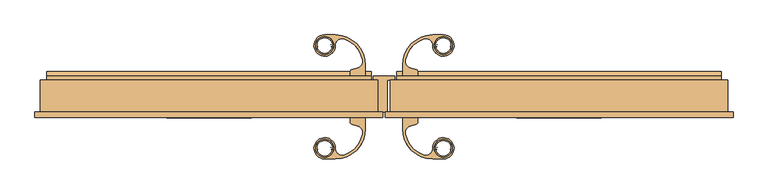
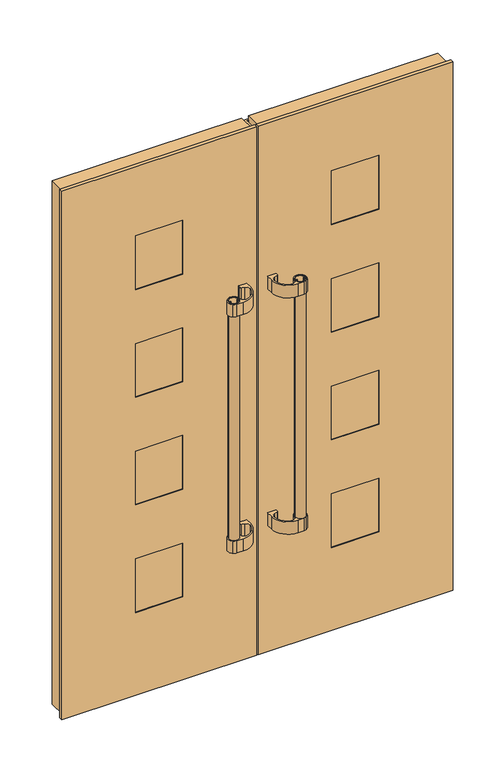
"""IFC4 building model written with IfcOpenShell, lengths in millimetres: door geometry, Dvokrilna vrata : Dvokrilna vrata."""

from ifc_helpers import new_model, si_unit, point, frame, frame_2d, origin, place, context, project, spatial, polyline, circle_curve, trimmed, segment, composite_curve, outline, extrude, faceted_brep, source, transform, mapped, element, save


def door_7fb9f7a2(model_context):
    return source(origin(), model_context, "Body", "SolidModel", [
        extrude(outline(composite_curve([segment(trimmed(circle_curve(frame_2d((-126.3492344, 128.9438952)), 19.0), [point((-107.3492344, 128.9438952))], [point((-145.3492344, 128.9438952))], False, "CARTESIAN"), True, "CONTINUOUS"), segment(trimmed(circle_curve(frame_2d((-126.3492344, 128.9438952)), 19.0), [point((-145.3492344, 128.9438952))], [point((-107.3492344, 128.9438952))], False, "CARTESIAN"), True, "CONTINUOUS")], self_intersect=False), holes=[composite_curve([segment(polyline([(-112.9852499, 130.0399107), (-114.1318511, 130.0399107), (-114.1318511, 131.0110599)]), True, "CONTINUOUS"), segment(trimmed(circle_curve(frame_2d((-111.8892344, 128.9438952)), 3.05), [point((-114.1318511, 131.0110599))], [point((-111.8892344, 131.9938952))], False, "CARTESIAN"), True, "CONTINUOUS"), segment(polyline([(-111.8892344, 131.9938952), (-110.6426275, 131.9938952)]), True, "CONTINUOUS"), segment(trimmed(circle_curve(frame_2d((-126.3492344, 128.9438952)), 16.0), [point((-110.6426275, 131.9938952))], [point((-142.0558413, 131.9938952))], True, "CARTESIAN"), True, "CONTINUOUS"), segment(polyline([(-142.0558413, 131.9938952), (-140.8492344, 131.9938952)]), True, "CONTINUOUS"), segment(trimmed(circle_curve(frame_2d((-140.8492344, 128.9438952)), 3.05), [point((-140.8492344, 131.9938952))], [point((-138.6066176, 131.0110599))], False, "CARTESIAN"), True, "CONTINUOUS"), segment(polyline([(-138.6066176, 131.0110599), (-138.6066176, 130.0399107), (-139.7532189, 130.0399107)]), True, "CONTINUOUS"), segment(trimmed(circle_curve(frame_2d((-140.8492344, 128.9438952)), 1.55), [point((-139.7532189, 130.0399107))], [point((-139.7532189, 127.8478797))], True, "CARTESIAN"), True, "CONTINUOUS"), segment(polyline([(-139.7532189, 127.8478797), (-138.6066176, 127.8478797), (-138.6066176, 126.8767304)]), True, "CONTINUOUS"), segment(trimmed(circle_curve(frame_2d((-140.8492344, 128.9438952)), 3.05), [point((-138.6066176, 126.8767304))], [point((-140.8492344, 125.8938952))], False, "CARTESIAN"), True, "CONTINUOUS"), segment(polyline([(-140.8492344, 125.8938952), (-142.0558413, 125.8938952)]), True, "CONTINUOUS"), segment(trimmed(circle_curve(frame_2d((-126.3492344, 128.9438952)), 16.0), [point((-142.0558413, 125.8938952))], [point((-110.6426275, 125.8938952))], True, "CARTESIAN"), True, "CONTINUOUS"), segment(polyline([(-110.6426275, 125.8938952), (-111.8892344, 125.8938952)]), True, "CONTINUOUS"), segment(trimmed(circle_curve(frame_2d((-111.8892344, 128.9438952)), 3.05), [point((-111.8892344, 125.8938952))], [point((-114.1318511, 126.8767304))], False, "CARTESIAN"), True, "CONTINUOUS"), segment(polyline([(-114.1318511, 126.8767304), (-114.1318511, 127.8478797), (-112.9852499, 127.8478797)]), True, "CONTINUOUS"), segment(trimmed(circle_curve(frame_2d((-111.8892344, 128.9438952)), 1.55), [point((-112.9852499, 127.8478797))], [point((-112.9852499, 130.0399107))], True, "CARTESIAN"), True, "CONTINUOUS")], self_intersect=False)]), frame((0.0, 0.0, 527.625), z_axis=(0.0, 0.0, 1.0), x_axis=(1.0, 0.0, 0.0)), (0.0, 0.0, 1.0), 1000.0),
        extrude(outline(composite_curve([segment(polyline([(-44.8023572, 63.4961329), (-71.8023572, 63.4961329), (-71.8023572, 72.7980618)]), True, "CONTINUOUS"), segment(trimmed(circle_curve(frame_2d((-66.8023572, 72.7980618)), 5.0), [point((-71.8023572, 72.7980618))], [point((-68.0964525, 77.6276909))], False, "CARTESIAN"), True, "CONTINUOUS"), segment(polyline([(-68.0964525, 77.6276909), (-56.5661053, 80.7172381)]), True, "CONTINUOUS"), segment(trimmed(circle_curve(frame_2d((-60.4493786, 95.2098114)), 15.0038159), [point((-56.5661053, 80.7172381))], [point((-45.7345113, 98.1401991))], True, "CARTESIAN"), True, "CONTINUOUS"), segment(trimmed(circle_curve(frame_2d((-103.7300199, 87.7545934)), 58.9180773), [point((-45.7345113, 98.1401991))], [point((-83.4313805, 143.0655784))], True, "CARTESIAN"), True, "CONTINUOUS"), segment(trimmed(circle_curve(frame_2d((-88.5992427, 128.9838687)), 15.0000449), [point((-83.4313805, 143.0655784))], [point((-103.5992344, 128.9438952))], True, "CARTESIAN"), True, "CONTINUOUS"), segment(trimmed(circle_curve(frame_2d((-126.230867, 128.883584)), 22.631713), [point((-103.5992344, 128.9438952))], [point((-112.9771199, 110.5387586))], False, "CARTESIAN"), True, "CONTINUOUS"), segment(trimmed(circle_curve(frame_2d((-126.3441758, 129.0404174)), 22.8251959), [point((-112.9771199, 110.5387586))], [point((-141.5719557, 112.0373504))], False, "CARTESIAN"), True, "CONTINUOUS"), segment(trimmed(circle_curve(frame_2d((-126.4269716, 128.9479692)), 22.7010919), [point((-141.5719557, 112.0373504))], [point((-139.7213489, 147.3490318))], False, "CARTESIAN"), True, "CONTINUOUS"), segment(trimmed(circle_curve(frame_2d((-126.2850899, 128.7515875)), 22.9433648), [point((-139.7213489, 147.3490318))], [point((-126.7035351, 151.6911361))], False, "CARTESIAN"), True, "CONTINUOUS"), segment(polyline([(-126.7035351, 151.6911361), (-103.7995982, 151.6911361)]), True, "CONTINUOUS"), segment(trimmed(circle_curve(frame_2d((-103.7995982, 87.6938952)), 63.997241), [point((-103.7995982, 151.6911361))], [point((-39.8023572, 87.6938952))], False, "CARTESIAN"), True, "CONTINUOUS"), segment(polyline([(-39.8023572, 87.6938952), (-39.8023572, 63.4961329), (-44.8023572, 63.4961329)]), True, "CONTINUOUS")], self_intersect=False), holes=[composite_curve([segment(trimmed(circle_curve(frame_2d((-126.3492344, 128.9438952)), 19.25), [point((-107.0992344, 128.9438952))], [point((-145.5992344, 128.9438952))], True, "CARTESIAN"), True, "CONTINUOUS"), segment(trimmed(circle_curve(frame_2d((-126.3492344, 128.9438952)), 19.25), [point((-145.5992344, 128.9438952))], [point((-107.0992344, 128.9438952))], True, "CARTESIAN"), True, "CONTINUOUS")], self_intersect=False)]), frame((0.0, 0.0, 1477.625), z_axis=(0.0, 0.0, 1.0), x_axis=(1.0, 0.0, 0.0)), (0.0, 0.0, 1.0), 50.0),
        extrude(outline(composite_curve([segment(polyline([(-44.8023572, 63.4961329), (-71.8023572, 63.4961329), (-71.8023572, 72.7980618)]), True, "CONTINUOUS"), segment(trimmed(circle_curve(frame_2d((-66.8023572, 72.7980618)), 5.0), [point((-71.8023572, 72.7980618))], [point((-68.0964525, 77.6276909))], False, "CARTESIAN"), True, "CONTINUOUS"), segment(polyline([(-68.0964525, 77.6276909), (-56.5661053, 80.7172381)]), True, "CONTINUOUS"), segment(trimmed(circle_curve(frame_2d((-60.4493786, 95.2098114)), 15.0038159), [point((-56.5661053, 80.7172381))], [point((-45.7345113, 98.1401991))], True, "CARTESIAN"), True, "CONTINUOUS"), segment(trimmed(circle_curve(frame_2d((-103.7300199, 87.7545934)), 58.9180773), [point((-45.7345113, 98.1401991))], [point((-83.4313805, 143.0655784))], True, "CARTESIAN"), True, "CONTINUOUS"), segment(trimmed(circle_curve(frame_2d((-88.5992427, 128.9838687)), 15.0000449), [point((-83.4313805, 143.0655784))], [point((-103.5992344, 128.9438952))], True, "CARTESIAN"), True, "CONTINUOUS"), segment(trimmed(circle_curve(frame_2d((-126.230867, 128.883584)), 22.631713), [point((-103.5992344, 128.9438952))], [point((-112.9771199, 110.5387586))], False, "CARTESIAN"), True, "CONTINUOUS"), segment(trimmed(circle_curve(frame_2d((-126.3441758, 129.0404174)), 22.8251959), [point((-112.9771199, 110.5387586))], [point((-141.5719557, 112.0373504))], False, "CARTESIAN"), True, "CONTINUOUS"), segment(trimmed(circle_curve(frame_2d((-126.4269716, 128.9479692)), 22.7010919), [point((-141.5719557, 112.0373504))], [point((-139.7213489, 147.3490318))], False, "CARTESIAN"), True, "CONTINUOUS"), segment(trimmed(circle_curve(frame_2d((-126.2850899, 128.7515875)), 22.9433648), [point((-139.7213489, 147.3490318))], [point((-126.7035351, 151.6911361))], False, "CARTESIAN"), True, "CONTINUOUS"), segment(polyline([(-126.7035351, 151.6911361), (-103.7995982, 151.6911361)]), True, "CONTINUOUS"), segment(trimmed(circle_curve(frame_2d((-103.7995982, 87.6938952)), 63.997241), [point((-103.7995982, 151.6911361))], [point((-39.8023572, 87.6938952))], False, "CARTESIAN"), True, "CONTINUOUS"), segment(polyline([(-39.8023572, 87.6938952), (-39.8023572, 63.4961329), (-44.8023572, 63.4961329)]), True, "CONTINUOUS")], self_intersect=False), holes=[composite_curve([segment(trimmed(circle_curve(frame_2d((-126.3492344, 128.9438952)), 19.25), [point((-107.0992344, 128.9438952))], [point((-145.5992344, 128.9438952))], True, "CARTESIAN"), True, "CONTINUOUS"), segment(trimmed(circle_curve(frame_2d((-126.3492344, 128.9438952)), 19.25), [point((-145.5992344, 128.9438952))], [point((-107.0992344, 128.9438952))], True, "CARTESIAN"), True, "CONTINUOUS")], self_intersect=False)]), frame((0.0, 0.0, 527.625), z_axis=(0.0, 0.0, 1.0), x_axis=(1.0, 0.0, 0.0)), (0.0, 0.0, 1.0), 50.0),
        extrude(outline(composite_curve([segment(trimmed(circle_curve(frame_2d((-126.3492344, -90.4477622)), 19.0), [point((-107.3492344, -90.4477622))], [point((-145.3492344, -90.4477622))], False, "CARTESIAN"), True, "CONTINUOUS"), segment(trimmed(circle_curve(frame_2d((-126.3492344, -90.4477622)), 19.0), [point((-145.3492344, -90.4477622))], [point((-107.3492344, -90.4477622))], False, "CARTESIAN"), True, "CONTINUOUS")], self_intersect=False), holes=[composite_curve([segment(trimmed(circle_curve(frame_2d((-111.8892344, -90.4477622)), 1.55), [point((-112.9852499, -91.5437777))], [point((-112.9852499, -89.3517467))], True, "CARTESIAN"), True, "CONTINUOUS"), segment(polyline([(-112.9852499, -89.3517467), (-114.1318511, -89.3517467), (-114.1318511, -88.3805975)]), True, "CONTINUOUS"), segment(trimmed(circle_curve(frame_2d((-111.8892344, -90.4477622)), 3.05), [point((-114.1318511, -88.3805975))], [point((-111.8892344, -87.3977622))], False, "CARTESIAN"), True, "CONTINUOUS"), segment(polyline([(-111.8892344, -87.3977622), (-110.6426275, -87.3977622)]), True, "CONTINUOUS"), segment(trimmed(circle_curve(frame_2d((-126.3492344, -90.4477622)), 16.0), [point((-110.6426275, -87.3977622))], [point((-142.0558413, -87.3977622))], True, "CARTESIAN"), True, "CONTINUOUS"), segment(polyline([(-142.0558413, -87.3977622), (-140.8492344, -87.3977622)]), True, "CONTINUOUS"), segment(trimmed(circle_curve(frame_2d((-140.8492344, -90.4477622)), 3.05), [point((-140.8492344, -87.3977622))], [point((-138.6066176, -88.3805975))], False, "CARTESIAN"), True, "CONTINUOUS"), segment(polyline([(-138.6066176, -88.3805975), (-138.6066176, -89.3517467), (-139.7532189, -89.3517467)]), True, "CONTINUOUS"), segment(trimmed(circle_curve(frame_2d((-140.8492344, -90.4477622)), 1.55), [point((-139.7532189, -89.3517467))], [point((-139.7532189, -91.5437777))], True, "CARTESIAN"), True, "CONTINUOUS"), segment(polyline([(-139.7532189, -91.5437777), (-138.6066176, -91.5437777), (-138.6066176, -92.514927)]), True, "CONTINUOUS"), segment(trimmed(circle_curve(frame_2d((-140.8492344, -90.4477622)), 3.05), [point((-138.6066176, -92.514927))], [point((-140.8492344, -93.4977622))], False, "CARTESIAN"), True, "CONTINUOUS"), segment(polyline([(-140.8492344, -93.4977622), (-142.0558413, -93.4977622)]), True, "CONTINUOUS"), segment(trimmed(circle_curve(frame_2d((-126.3492344, -90.4477622)), 16.0), [point((-142.0558413, -93.4977622))], [point((-110.6426275, -93.4977622))], True, "CARTESIAN"), True, "CONTINUOUS"), segment(polyline([(-110.6426275, -93.4977622), (-111.8892344, -93.4977622)]), True, "CONTINUOUS"), segment(trimmed(circle_curve(frame_2d((-111.8892344, -90.4477622)), 3.05), [point((-111.8892344, -93.4977622))], [point((-114.1318511, -92.514927))], False, "CARTESIAN"), True, "CONTINUOUS"), segment(polyline([(-114.1318511, -92.514927), (-114.1318511, -91.5437777), (-112.9852499, -91.5437777)]), True, "CONTINUOUS")], self_intersect=False)]), frame((0.0, 0.0, 527.625), z_axis=(0.0, 0.0, 1.0), x_axis=(1.0, 0.0, 0.0)), (0.0, 0.0, 1.0), 1000.0),
        extrude(outline(composite_curve([segment(polyline([(-44.8023572, -25.0), (-39.8023572, -25.0), (-39.8023572, -49.1977622)]), True, "CONTINUOUS"), segment(trimmed(circle_curve(frame_2d((-103.7995982, -49.1977622)), 63.997241), [point((-39.8023572, -49.1977622))], [point((-103.7995982, -113.1950032))], False, "CARTESIAN"), True, "CONTINUOUS"), segment(polyline([(-103.7995982, -113.1950032), (-126.7035351, -113.1950032)]), True, "CONTINUOUS"), segment(trimmed(circle_curve(frame_2d((-126.2850899, -90.2554545)), 22.9433648), [point((-126.7035351, -113.1950032))], [point((-139.7213489, -108.8528989))], False, "CARTESIAN"), True, "CONTINUOUS"), segment(trimmed(circle_curve(frame_2d((-126.4269716, -90.4518363)), 22.7010919), [point((-139.7213489, -108.8528989))], [point((-141.5719557, -73.5412175))], False, "CARTESIAN"), True, "CONTINUOUS"), segment(trimmed(circle_curve(frame_2d((-126.3441758, -90.5442845)), 22.8251959), [point((-141.5719557, -73.5412175))], [point((-112.9771199, -72.0426256))], False, "CARTESIAN"), True, "CONTINUOUS"), segment(trimmed(circle_curve(frame_2d((-126.230867, -90.3874511)), 22.631713), [point((-112.9771199, -72.0426256))], [point((-103.5992344, -90.4477622))], False, "CARTESIAN"), True, "CONTINUOUS"), segment(trimmed(circle_curve(frame_2d((-88.5992427, -90.4877358)), 15.0000449), [point((-103.5992344, -90.4477622))], [point((-83.4313805, -104.5694455))], True, "CARTESIAN"), True, "CONTINUOUS"), segment(trimmed(circle_curve(frame_2d((-103.7300199, -49.2584604)), 58.9180773), [point((-83.4313805, -104.5694455))], [point((-45.7345113, -59.6440661))], True, "CARTESIAN"), True, "CONTINUOUS"), segment(trimmed(circle_curve(frame_2d((-60.4493786, -56.7136785)), 15.0038159), [point((-45.7345113, -59.6440661))], [point((-56.5661053, -42.2211052))], True, "CARTESIAN"), True, "CONTINUOUS"), segment(polyline([(-56.5661053, -42.2211052), (-68.0964525, -39.131558)]), True, "CONTINUOUS"), segment(trimmed(circle_curve(frame_2d((-66.8023572, -34.3019289)), 5.0), [point((-68.0964525, -39.131558))], [point((-71.8023572, -34.3019289))], False, "CARTESIAN"), True, "CONTINUOUS"), segment(polyline([(-71.8023572, -34.3019289), (-71.8023572, -25.0), (-44.8023572, -25.0)]), True, "CONTINUOUS")], self_intersect=False), holes=[composite_curve([segment(trimmed(circle_curve(frame_2d((-126.3492344, -90.4477622)), 19.25), [point((-107.0992344, -90.4477622))], [point((-145.5992344, -90.4477622))], True, "CARTESIAN"), True, "CONTINUOUS"), segment(trimmed(circle_curve(frame_2d((-126.3492344, -90.4477622)), 19.25), [point((-145.5992344, -90.4477622))], [point((-107.0992344, -90.4477622))], True, "CARTESIAN"), True, "CONTINUOUS")], self_intersect=False)]), frame((0.0, 0.0, 1477.625), z_axis=(0.0, 0.0, 1.0), x_axis=(1.0, 0.0, 0.0)), (0.0, 0.0, 1.0), 50.0),
        extrude(outline(composite_curve([segment(polyline([(-44.8023572, -25.0), (-39.8023572, -25.0), (-39.8023572, -49.1977622)]), True, "CONTINUOUS"), segment(trimmed(circle_curve(frame_2d((-103.7995982, -49.1977622)), 63.997241), [point((-39.8023572, -49.1977622))], [point((-103.7995982, -113.1950032))], False, "CARTESIAN"), True, "CONTINUOUS"), segment(polyline([(-103.7995982, -113.1950032), (-126.7035351, -113.1950032)]), True, "CONTINUOUS"), segment(trimmed(circle_curve(frame_2d((-126.2850899, -90.2554545)), 22.9433648), [point((-126.7035351, -113.1950032))], [point((-139.7213489, -108.8528989))], False, "CARTESIAN"), True, "CONTINUOUS"), segment(trimmed(circle_curve(frame_2d((-126.4269716, -90.4518363)), 22.7010919), [point((-139.7213489, -108.8528989))], [point((-141.5719557, -73.5412175))], False, "CARTESIAN"), True, "CONTINUOUS"), segment(trimmed(circle_curve(frame_2d((-126.3441758, -90.5442845)), 22.8251959), [point((-141.5719557, -73.5412175))], [point((-112.9771199, -72.0426256))], False, "CARTESIAN"), True, "CONTINUOUS"), segment(trimmed(circle_curve(frame_2d((-126.230867, -90.3874511)), 22.631713), [point((-112.9771199, -72.0426256))], [point((-103.5992344, -90.4477622))], False, "CARTESIAN"), True, "CONTINUOUS"), segment(trimmed(circle_curve(frame_2d((-88.5992427, -90.4877358)), 15.0000449), [point((-103.5992344, -90.4477622))], [point((-83.4313805, -104.5694455))], True, "CARTESIAN"), True, "CONTINUOUS"), segment(trimmed(circle_curve(frame_2d((-103.7300199, -49.2584604)), 58.9180773), [point((-83.4313805, -104.5694455))], [point((-45.7345113, -59.6440661))], True, "CARTESIAN"), True, "CONTINUOUS"), segment(trimmed(circle_curve(frame_2d((-60.4493786, -56.7136785)), 15.0038159), [point((-45.7345113, -59.6440661))], [point((-56.5661053, -42.2211052))], True, "CARTESIAN"), True, "CONTINUOUS"), segment(polyline([(-56.5661053, -42.2211052), (-68.0964525, -39.131558)]), True, "CONTINUOUS"), segment(trimmed(circle_curve(frame_2d((-66.8023572, -34.3019289)), 5.0), [point((-68.0964525, -39.131558))], [point((-71.8023572, -34.3019289))], False, "CARTESIAN"), True, "CONTINUOUS"), segment(polyline([(-71.8023572, -34.3019289), (-71.8023572, -25.0), (-44.8023572, -25.0)]), True, "CONTINUOUS")], self_intersect=False), holes=[composite_curve([segment(trimmed(circle_curve(frame_2d((-126.3492344, -90.4477622)), 19.25), [point((-107.0992344, -90.4477622))], [point((-145.5992344, -90.4477622))], True, "CARTESIAN"), True, "CONTINUOUS"), segment(trimmed(circle_curve(frame_2d((-126.3492344, -90.4477622)), 19.25), [point((-145.5992344, -90.4477622))], [point((-107.0992344, -90.4477622))], True, "CARTESIAN"), True, "CONTINUOUS")], self_intersect=False)]), frame((0.0, 0.0, 527.625), z_axis=(0.0, 0.0, 1.0), x_axis=(1.0, 0.0, 0.0)), (0.0, 0.0, 1.0), 50.0),
        extrude(outline(polyline([(-282.9982811, 59.8961329), (-282.9982811, -21.5), (-463.0017189, -21.5), (-463.0017189, 59.8961329), (-282.9982811, 59.8961329)])), frame((0.0, 0.0, 184.2503392), z_axis=(0.0, 0.0, 1.0), x_axis=(1.0, 0.0, 0.0)), (0.0, 0.0, 1.0), 1742.3567656),
        faceted_brep([(-27.5021965, 55.0006316, 34.3057913), (-27.5021965, 56.2006316, 34.3057913), (-27.5021965, 56.2006316, 43.8984108), (-27.5021965, 64.4629528, 43.8984108), (-27.5021965, 72.0042669, 35.8113415), (-27.5021965, 72.0042669, 33.9357913), (-27.5021965, 73.5042669, 33.9357913), (-27.5021965, 73.5042669, 35.9623235), (-27.5021965, 65.0744489, 45.0021965), (-27.5021965, 63.4961329, 45.0021965), (-27.5021965, 63.4961329, 2118.4978035), (-27.5021965, 55.0006316, 2118.4978035), (-13.5023584, 55.0006316, 31.0023584), (-732.4976416, 55.0006316, 31.0023584), (-732.4976416, 55.0006316, 2132.4976416), (-13.5023584, 55.0006316, 2132.4976416), (-13.5023584, 55.0006316, 2115.0), (-17.3523584, 55.0006316, 2115.0), (-22.5040983, 55.0006316, 2115.0), (-22.5040983, 55.0006316, 48.5), (-17.3523584, 55.0006316, 48.5), (-13.5023584, 55.0006316, 48.5), (-718.4978035, 55.0006316, 2118.4978035), (-718.4978035, 55.0006316, 34.3057913), (-718.4978035, 63.4961329, 45.0021965), (-718.4978035, 63.4961329, 2118.4978035), (-282.9982811, 63.4961329, 1000.80125), (-463.0017189, 63.4961329, 1000.80125), (-463.0017189, 63.4961329, 784.6925), (-282.9982811, 63.4961329, 784.6925), (-282.9982811, 63.4961329, 568.58375), (-463.0017189, 63.4961329, 568.58375), (-463.0017189, 63.4961329, 352.475), (-282.9982811, 63.4961329, 352.475), (-282.9982811, 63.4961329, 1865.23625), (-463.0017189, 63.4961329, 1865.23625), (-463.0017189, 63.4961329, 1649.1275), (-282.9982811, 63.4961329, 1649.1275), (-282.9982811, 63.4961329, 1433.01875), (-463.0017189, 63.4961329, 1433.01875), (-463.0017189, 63.4961329, 1216.91), (-282.9982811, 63.4961329, 1216.91), (-82.9982811, -21.5, 2063.0017189), (-82.9982811, 59.8961329, 2063.0017189), (-82.9982811, 59.8961329, 100.4982811), (-82.9982811, -21.5, 100.4982811), (-663.0017189, 59.8961329, 2063.0017189), (-663.0017189, 59.8961329, 100.4982811), (-463.0017189, 59.8961329, 1000.80125), (-282.9982811, 59.8961329, 1000.80125), (-282.9982811, 59.8961329, 784.6925), (-463.0017189, 59.8961329, 784.6925), (-463.0017189, 59.8961329, 568.58375), (-282.9982811, 59.8961329, 568.58375), (-282.9982811, 59.8961329, 352.475), (-463.0017189, 59.8961329, 352.475), (-463.0017189, 59.8961329, 1865.23625), (-282.9982811, 59.8961329, 1865.23625), (-282.9982811, 59.8961329, 1649.1275), (-463.0017189, 59.8961329, 1649.1275), (-463.0017189, 59.8961329, 1433.01875), (-282.9982811, 59.8961329, 1433.01875), (-282.9982811, 59.8961329, 1216.91), (-463.0017189, 59.8961329, 1216.91), (-663.0017189, -21.5, 100.4982811), (-663.0017189, -21.5, 2063.0017189), (-282.9982811, -21.5, 1000.80125), (-463.0017189, -21.5, 1000.80125), (-463.0017189, -21.5, 784.6925), (-282.9982811, -21.5, 784.6925), (-282.9982811, -21.5, 568.58375), (-463.0017189, -21.5, 568.58375), (-463.0017189, -21.5, 352.475), (-282.9982811, -21.5, 352.475), (-282.9982811, -21.5, 1865.23625), (-463.0017189, -21.5, 1865.23625), (-463.0017189, -21.5, 1649.1275), (-282.9982811, -21.5, 1649.1275), (-282.9982811, -21.5, 1433.01875), (-463.0017189, -21.5, 1433.01875), (-463.0017189, -21.5, 1216.91), (-282.9982811, -21.5, 1216.91), (-2.5023572, -25.0, 2143.5), (-743.4976428, -25.0, 2143.5), (-743.4976428, -25.0, 20.0), (-2.5023572, -25.0, 20.0), (-463.0017189, -25.0, 1000.80125), (-282.9982811, -25.0, 1000.80125), (-282.9982811, -25.0, 784.6925), (-463.0017189, -25.0, 784.6925), (-463.0017189, -25.0, 568.58375), (-282.9982811, -25.0, 568.58375), (-282.9982811, -25.0, 352.475), (-463.0017189, -25.0, 352.475), (-463.0017189, -25.0, 1865.23625), (-282.9982811, -25.0, 1865.23625), (-282.9982811, -25.0, 1649.1275), (-463.0017189, -25.0, 1649.1275), (-463.0017189, -25.0, 1433.01875), (-282.9982811, -25.0, 1433.01875), (-282.9982811, -25.0, 1216.91), (-463.0017189, -25.0, 1216.91), (-2.5023572, -13.0033697, 20.0023572), (-2.5023572, -13.0033697, 48.5), (-2.5023572, -12.9982103, 2115.0), (-2.5023572, -13.0033697, 2143.4976428), (-743.4976428, -13.0033697, 20.0023572), (-743.4976428, -13.0033697, 2143.4976428), (-13.5023584, -13.0033697, 2115.0), (-13.5023584, -13.0033697, 2132.4976416), (-732.4976416, -13.0033697, 2132.4976416), (-732.4976416, -13.0033697, 31.0023584), (-13.5023584, -13.0033697, 31.0023584), (-13.5023584, -13.0033697, 48.5), (7.0007099, -12.9982103, 48.5), (7.0007099, -12.9982103, 2115.0), (-22.5040983, 63.5006316, 48.5), (22.4934309, 63.5006316, 48.5), (22.4934309, 55.0305759, 48.5), (7.0007099, 55.0305759, 48.5), (-718.4978035, 65.0744489, 45.0021965), (-718.4978035, 73.5042669, 35.9623235), (-718.4978035, 73.5042669, 33.9357913), (-718.4978035, 72.0042669, 33.9357913), (-718.4978035, 72.0042669, 35.8113415), (-718.4978035, 64.4629528, 43.8984108), (-718.4978035, 56.2006316, 43.8984108), (-718.4978035, 56.2006316, 34.3057913), (-22.5040983, 63.5006316, 2115.0), (22.4934309, 63.5006316, 2115.0), (22.4934309, 55.0305759, 2115.0), (7.0007099, 55.0305759, 2115.0)], [[[0, 1, 2, 3, 4, 5, 6, 7, 8, 9, 10, 11]], [[12, 13, 14, 15, 16, 17, 18, 19, 20, 21], [0, 11, 22, 23]], [[10, 9, 24, 25], [26, 27, 28, 29], [30, 31, 32, 33], [34, 35, 36, 37], [38, 39, 40, 41]], [[42, 43, 44, 45]], [[44, 43, 46, 47], [48, 49, 50, 51], [52, 53, 54, 55], [56, 57, 58, 59], [60, 61, 62, 63]], [[45, 44, 47, 64]], [[42, 45, 64, 65], [66, 67, 68, 69], [70, 71, 72, 73], [74, 75, 76, 77], [78, 79, 80, 81]], [[82, 83, 84, 85], [86, 87, 88, 89], [90, 91, 92, 93], [94, 95, 96, 97], [98, 99, 100, 101]], [[82, 85, 102, 103, 104, 105]], [[106, 102, 85, 84]], [[102, 106, 107, 105, 104, 108, 109, 110, 111, 112, 113, 103]], [[114, 115, 104, 103]], [[112, 12, 21, 113]], [[15, 109, 108, 16]], [[12, 112, 111, 13]], [[19, 116, 117, 118, 119, 114, 103, 113, 21, 20]], [[22, 25, 24, 120, 121, 122, 123, 124, 125, 126, 127, 23]], [[64, 47, 46, 65]], [[107, 106, 84, 83]], [[13, 111, 110, 14]], [[18, 128, 116, 19]], [[39, 60, 63, 40]], [[79, 98, 101, 80]], [[40, 63, 62, 41]], [[80, 101, 100, 81]], [[61, 38, 41, 62]], [[99, 78, 81, 100]], [[26, 49, 48, 27]], [[66, 87, 86, 67]], [[49, 26, 29, 50]], [[87, 66, 69, 88]], [[28, 51, 50, 29]], [[68, 89, 88, 69]], [[27, 48, 51, 28]], [[67, 86, 89, 68]], [[30, 53, 52, 31]], [[70, 91, 90, 71]], [[53, 30, 33, 54]], [[91, 70, 73, 92]], [[32, 55, 54, 33]], [[72, 93, 92, 73]], [[31, 52, 55, 32]], [[71, 90, 93, 72]], [[128, 129, 117, 116]], [[129, 130, 118, 117]], [[130, 131, 119, 118]], [[131, 115, 114, 119]], [[22, 11, 10, 25]], [[43, 42, 65, 46]], [[105, 107, 83, 82]], [[109, 15, 14, 110]], [[34, 57, 56, 35]], [[74, 95, 94, 75]], [[35, 56, 59, 36]], [[75, 94, 97, 76]], [[36, 59, 58, 37]], [[76, 97, 96, 77]], [[57, 34, 37, 58]], [[95, 74, 77, 96]], [[38, 61, 60, 39]], [[78, 99, 98, 79]], [[115, 131, 130, 129, 128, 18, 17, 16, 108, 104]], [[23, 127, 1, 0]], [[127, 126, 2, 1]], [[126, 125, 3, 2]], [[125, 124, 4, 3]], [[124, 123, 5, 4]], [[123, 122, 6, 5]], [[122, 121, 7, 6]], [[121, 120, 8, 7]], [[8, 120, 24, 9]]]),
        extrude(outline(composite_curve([segment(trimmed(circle_curve(frame_2d((126.3492344, 128.9438952)), 19.0), [point((107.3492344, 128.9438952))], [point((145.3492344, 128.9438952))], False, "CARTESIAN"), True, "CONTINUOUS"), segment(trimmed(circle_curve(frame_2d((126.3492344, 128.9438952)), 19.0), [point((145.3492344, 128.9438952))], [point((107.3492344, 128.9438952))], False, "CARTESIAN"), True, "CONTINUOUS")], self_intersect=False), holes=[composite_curve([segment(trimmed(circle_curve(frame_2d((111.8892344, 128.9438952)), 1.55), [point((112.9852499, 130.0399107))], [point((112.9852499, 127.8478797))], True, "CARTESIAN"), True, "CONTINUOUS"), segment(polyline([(112.9852499, 127.8478797), (114.1318511, 127.8478797), (114.1318511, 126.8767304)]), True, "CONTINUOUS"), segment(trimmed(circle_curve(frame_2d((111.8892344, 128.9438952)), 3.05), [point((114.1318511, 126.8767304))], [point((111.8892344, 125.8938952))], False, "CARTESIAN"), True, "CONTINUOUS"), segment(polyline([(111.8892344, 125.8938952), (110.6426275, 125.8938952)]), True, "CONTINUOUS"), segment(trimmed(circle_curve(frame_2d((126.3492344, 128.9438952)), 16.0), [point((110.6426275, 125.8938952))], [point((142.0558413, 125.8938952))], True, "CARTESIAN"), True, "CONTINUOUS"), segment(polyline([(142.0558413, 125.8938952), (140.8492344, 125.8938952)]), True, "CONTINUOUS"), segment(trimmed(circle_curve(frame_2d((140.8492344, 128.9438952)), 3.05), [point((140.8492344, 125.8938952))], [point((138.6066176, 126.8767304))], False, "CARTESIAN"), True, "CONTINUOUS"), segment(polyline([(138.6066176, 126.8767304), (138.6066176, 127.8478797), (139.7532189, 127.8478797)]), True, "CONTINUOUS"), segment(trimmed(circle_curve(frame_2d((140.8492344, 128.9438952)), 1.55), [point((139.7532189, 127.8478797))], [point((139.7532189, 130.0399107))], True, "CARTESIAN"), True, "CONTINUOUS"), segment(polyline([(139.7532189, 130.0399107), (138.6066176, 130.0399107), (138.6066176, 131.0110599)]), True, "CONTINUOUS"), segment(trimmed(circle_curve(frame_2d((140.8492344, 128.9438952)), 3.05), [point((138.6066176, 131.0110599))], [point((140.8492344, 131.9938952))], False, "CARTESIAN"), True, "CONTINUOUS"), segment(polyline([(140.8492344, 131.9938952), (142.0558413, 131.9938952)]), True, "CONTINUOUS"), segment(trimmed(circle_curve(frame_2d((126.3492344, 128.9438952)), 16.0), [point((142.0558413, 131.9938952))], [point((110.6426275, 131.9938952))], True, "CARTESIAN"), True, "CONTINUOUS"), segment(polyline([(110.6426275, 131.9938952), (111.8892344, 131.9938952)]), True, "CONTINUOUS"), segment(trimmed(circle_curve(frame_2d((111.8892344, 128.9438952)), 3.05), [point((111.8892344, 131.9938952))], [point((114.1318511, 131.0110599))], False, "CARTESIAN"), True, "CONTINUOUS"), segment(polyline([(114.1318511, 131.0110599), (114.1318511, 130.0399107), (112.9852499, 130.0399107)]), True, "CONTINUOUS")], self_intersect=False)]), frame((0.0, 0.0, 527.625), z_axis=(0.0, 0.0, 1.0), x_axis=(1.0, 0.0, 0.0)), (0.0, 0.0, 1.0), 1000.0),
        extrude(outline(composite_curve([segment(polyline([(44.8023572, 63.4961329), (39.8023572, 63.4961329), (39.8023572, 87.6938952)]), True, "CONTINUOUS"), segment(trimmed(circle_curve(frame_2d((103.7995982, 87.6938952)), 63.997241), [point((39.8023572, 87.6938952))], [point((103.7995982, 151.6911361))], False, "CARTESIAN"), True, "CONTINUOUS"), segment(polyline([(103.7995982, 151.6911361), (126.7035351, 151.6911361)]), True, "CONTINUOUS"), segment(trimmed(circle_curve(frame_2d((126.2850899, 128.7515875)), 22.9433648), [point((126.7035351, 151.6911361))], [point((139.7213489, 147.3490318))], False, "CARTESIAN"), True, "CONTINUOUS"), segment(trimmed(circle_curve(frame_2d((126.4269716, 128.9479692)), 22.7010919), [point((139.7213489, 147.3490318))], [point((141.5719557, 112.0373504))], False, "CARTESIAN"), True, "CONTINUOUS"), segment(trimmed(circle_curve(frame_2d((126.3441758, 129.0404174)), 22.8251959), [point((141.5719557, 112.0373504))], [point((112.9771199, 110.5387586))], False, "CARTESIAN"), True, "CONTINUOUS"), segment(trimmed(circle_curve(frame_2d((126.230867, 128.883584)), 22.631713), [point((112.9771199, 110.5387586))], [point((103.5992344, 128.9438952))], False, "CARTESIAN"), True, "CONTINUOUS"), segment(trimmed(circle_curve(frame_2d((88.5992427, 128.9838687)), 15.0000449), [point((103.5992344, 128.9438952))], [point((83.4313805, 143.0655784))], True, "CARTESIAN"), True, "CONTINUOUS"), segment(trimmed(circle_curve(frame_2d((103.7300199, 87.7545934)), 58.9180773), [point((83.4313805, 143.0655784))], [point((45.7345113, 98.1401991))], True, "CARTESIAN"), True, "CONTINUOUS"), segment(trimmed(circle_curve(frame_2d((60.4493786, 95.2098114)), 15.0038159), [point((45.7345113, 98.1401991))], [point((56.5661053, 80.7172381))], True, "CARTESIAN"), True, "CONTINUOUS"), segment(polyline([(56.5661053, 80.7172381), (68.0964525, 77.6276909)]), True, "CONTINUOUS"), segment(trimmed(circle_curve(frame_2d((66.8023572, 72.7980618)), 5.0), [point((68.0964525, 77.6276909))], [point((71.8023572, 72.7980618))], False, "CARTESIAN"), True, "CONTINUOUS"), segment(polyline([(71.8023572, 72.7980618), (71.8023572, 63.4961329), (44.8023572, 63.4961329)]), True, "CONTINUOUS")], self_intersect=False), holes=[composite_curve([segment(trimmed(circle_curve(frame_2d((126.3492344, 128.9438952)), 19.25), [point((107.0992344, 128.9438952))], [point((145.5992344, 128.9438952))], True, "CARTESIAN"), True, "CONTINUOUS"), segment(trimmed(circle_curve(frame_2d((126.3492344, 128.9438952)), 19.25), [point((145.5992344, 128.9438952))], [point((107.0992344, 128.9438952))], True, "CARTESIAN"), True, "CONTINUOUS")], self_intersect=False)]), frame((0.0, 0.0, 1477.625), z_axis=(0.0, 0.0, 1.0), x_axis=(1.0, 0.0, 0.0)), (0.0, 0.0, 1.0), 50.0),
        extrude(outline(composite_curve([segment(polyline([(44.8023572, 63.4961329), (39.8023572, 63.4961329), (39.8023572, 87.6938952)]), True, "CONTINUOUS"), segment(trimmed(circle_curve(frame_2d((103.7995982, 87.6938952)), 63.997241), [point((39.8023572, 87.6938952))], [point((103.7995982, 151.6911361))], False, "CARTESIAN"), True, "CONTINUOUS"), segment(polyline([(103.7995982, 151.6911361), (126.7035351, 151.6911361)]), True, "CONTINUOUS"), segment(trimmed(circle_curve(frame_2d((126.2850899, 128.7515875)), 22.9433648), [point((126.7035351, 151.6911361))], [point((139.7213489, 147.3490318))], False, "CARTESIAN"), True, "CONTINUOUS"), segment(trimmed(circle_curve(frame_2d((126.4269716, 128.9479692)), 22.7010919), [point((139.7213489, 147.3490318))], [point((141.5719557, 112.0373504))], False, "CARTESIAN"), True, "CONTINUOUS"), segment(trimmed(circle_curve(frame_2d((126.3441758, 129.0404174)), 22.8251959), [point((141.5719557, 112.0373504))], [point((112.9771199, 110.5387586))], False, "CARTESIAN"), True, "CONTINUOUS"), segment(trimmed(circle_curve(frame_2d((126.230867, 128.883584)), 22.631713), [point((112.9771199, 110.5387586))], [point((103.5992344, 128.9438952))], False, "CARTESIAN"), True, "CONTINUOUS"), segment(trimmed(circle_curve(frame_2d((88.5992427, 128.9838687)), 15.0000449), [point((103.5992344, 128.9438952))], [point((83.4313805, 143.0655784))], True, "CARTESIAN"), True, "CONTINUOUS"), segment(trimmed(circle_curve(frame_2d((103.7300199, 87.7545934)), 58.9180773), [point((83.4313805, 143.0655784))], [point((45.7345113, 98.1401991))], True, "CARTESIAN"), True, "CONTINUOUS"), segment(trimmed(circle_curve(frame_2d((60.4493786, 95.2098114)), 15.0038159), [point((45.7345113, 98.1401991))], [point((56.5661053, 80.7172381))], True, "CARTESIAN"), True, "CONTINUOUS"), segment(polyline([(56.5661053, 80.7172381), (68.0964525, 77.6276909)]), True, "CONTINUOUS"), segment(trimmed(circle_curve(frame_2d((66.8023572, 72.7980618)), 5.0), [point((68.0964525, 77.6276909))], [point((71.8023572, 72.7980618))], False, "CARTESIAN"), True, "CONTINUOUS"), segment(polyline([(71.8023572, 72.7980618), (71.8023572, 63.4961329), (44.8023572, 63.4961329)]), True, "CONTINUOUS")], self_intersect=False), holes=[composite_curve([segment(trimmed(circle_curve(frame_2d((126.3492344, 128.9438952)), 19.25), [point((107.0992344, 128.9438952))], [point((145.5992344, 128.9438952))], True, "CARTESIAN"), True, "CONTINUOUS"), segment(trimmed(circle_curve(frame_2d((126.3492344, 128.9438952)), 19.25), [point((145.5992344, 128.9438952))], [point((107.0992344, 128.9438952))], True, "CARTESIAN"), True, "CONTINUOUS")], self_intersect=False)]), frame((0.0, 0.0, 527.625), z_axis=(0.0, 0.0, 1.0), x_axis=(1.0, 0.0, 0.0)), (0.0, 0.0, 1.0), 50.0),
        extrude(outline(composite_curve([segment(trimmed(circle_curve(frame_2d((126.3492344, -90.4477622)), 19.0), [point((107.3492344, -90.4477622))], [point((145.3492344, -90.4477622))], False, "CARTESIAN"), True, "CONTINUOUS"), segment(trimmed(circle_curve(frame_2d((126.3492344, -90.4477622)), 19.0), [point((145.3492344, -90.4477622))], [point((107.3492344, -90.4477622))], False, "CARTESIAN"), True, "CONTINUOUS")], self_intersect=False), holes=[composite_curve([segment(polyline([(112.9852499, -91.5437777), (114.1318511, -91.5437777), (114.1318511, -92.514927)]), True, "CONTINUOUS"), segment(trimmed(circle_curve(frame_2d((111.8892344, -90.4477622)), 3.05), [point((114.1318511, -92.514927))], [point((111.8892344, -93.4977622))], False, "CARTESIAN"), True, "CONTINUOUS"), segment(polyline([(111.8892344, -93.4977622), (110.6426275, -93.4977622)]), True, "CONTINUOUS"), segment(trimmed(circle_curve(frame_2d((126.3492344, -90.4477622)), 16.0), [point((110.6426275, -93.4977622))], [point((142.0558413, -93.4977622))], True, "CARTESIAN"), True, "CONTINUOUS"), segment(polyline([(142.0558413, -93.4977622), (140.8492344, -93.4977622)]), True, "CONTINUOUS"), segment(trimmed(circle_curve(frame_2d((140.8492344, -90.4477622)), 3.05), [point((140.8492344, -93.4977622))], [point((138.6066176, -92.514927))], False, "CARTESIAN"), True, "CONTINUOUS"), segment(polyline([(138.6066176, -92.514927), (138.6066176, -91.5437777), (139.7532189, -91.5437777)]), True, "CONTINUOUS"), segment(trimmed(circle_curve(frame_2d((140.8492344, -90.4477622)), 1.55), [point((139.7532189, -91.5437777))], [point((139.7532189, -89.3517467))], True, "CARTESIAN"), True, "CONTINUOUS"), segment(polyline([(139.7532189, -89.3517467), (138.6066176, -89.3517467), (138.6066176, -88.3805975)]), True, "CONTINUOUS"), segment(trimmed(circle_curve(frame_2d((140.8492344, -90.4477622)), 3.05), [point((138.6066176, -88.3805975))], [point((140.8492344, -87.3977622))], False, "CARTESIAN"), True, "CONTINUOUS"), segment(polyline([(140.8492344, -87.3977622), (142.0558413, -87.3977622)]), True, "CONTINUOUS"), segment(trimmed(circle_curve(frame_2d((126.3492344, -90.4477622)), 16.0), [point((142.0558413, -87.3977622))], [point((110.6426275, -87.3977622))], True, "CARTESIAN"), True, "CONTINUOUS"), segment(polyline([(110.6426275, -87.3977622), (111.8892344, -87.3977622)]), True, "CONTINUOUS"), segment(trimmed(circle_curve(frame_2d((111.8892344, -90.4477622)), 3.05), [point((111.8892344, -87.3977622))], [point((114.1318511, -88.3805975))], False, "CARTESIAN"), True, "CONTINUOUS"), segment(polyline([(114.1318511, -88.3805975), (114.1318511, -89.3517467), (112.9852499, -89.3517467)]), True, "CONTINUOUS"), segment(trimmed(circle_curve(frame_2d((111.8892344, -90.4477622)), 1.55), [point((112.9852499, -89.3517467))], [point((112.9852499, -91.5437777))], True, "CARTESIAN"), True, "CONTINUOUS")], self_intersect=False)]), frame((0.0, 0.0, 527.625), z_axis=(0.0, 0.0, 1.0), x_axis=(1.0, 0.0, 0.0)), (0.0, 0.0, 1.0), 1000.0),
        extrude(outline(composite_curve([segment(polyline([(44.8023572, -25.0), (71.8023572, -25.0), (71.8023572, -34.3019289)]), True, "CONTINUOUS"), segment(trimmed(circle_curve(frame_2d((66.8023572, -34.3019289)), 5.0), [point((71.8023572, -34.3019289))], [point((68.0964525, -39.131558))], False, "CARTESIAN"), True, "CONTINUOUS"), segment(polyline([(68.0964525, -39.131558), (56.5661053, -42.2211052)]), True, "CONTINUOUS"), segment(trimmed(circle_curve(frame_2d((60.4493786, -56.7136785)), 15.0038159), [point((56.5661053, -42.2211052))], [point((45.7345113, -59.6440661))], True, "CARTESIAN"), True, "CONTINUOUS"), segment(trimmed(circle_curve(frame_2d((103.7300199, -49.2584604)), 58.9180773), [point((45.7345113, -59.6440661))], [point((83.4313805, -104.5694455))], True, "CARTESIAN"), True, "CONTINUOUS"), segment(trimmed(circle_curve(frame_2d((88.5992427, -90.4877358)), 15.0000449), [point((83.4313805, -104.5694455))], [point((103.5992344, -90.4477622))], True, "CARTESIAN"), True, "CONTINUOUS"), segment(trimmed(circle_curve(frame_2d((126.230867, -90.3874511)), 22.631713), [point((103.5992344, -90.4477622))], [point((112.9771199, -72.0426256))], False, "CARTESIAN"), True, "CONTINUOUS"), segment(trimmed(circle_curve(frame_2d((126.3441758, -90.5442845)), 22.8251959), [point((112.9771199, -72.0426256))], [point((141.5719557, -73.5412175))], False, "CARTESIAN"), True, "CONTINUOUS"), segment(trimmed(circle_curve(frame_2d((126.4269716, -90.4518363)), 22.7010919), [point((141.5719557, -73.5412175))], [point((139.7213489, -108.8528989))], False, "CARTESIAN"), True, "CONTINUOUS"), segment(trimmed(circle_curve(frame_2d((126.2850899, -90.2554545)), 22.9433648), [point((139.7213489, -108.8528989))], [point((126.7035351, -113.1950032))], False, "CARTESIAN"), True, "CONTINUOUS"), segment(polyline([(126.7035351, -113.1950032), (103.7995982, -113.1950032)]), True, "CONTINUOUS"), segment(trimmed(circle_curve(frame_2d((103.7995982, -49.1977622)), 63.997241), [point((103.7995982, -113.1950032))], [point((39.8023572, -49.1977622))], False, "CARTESIAN"), True, "CONTINUOUS"), segment(polyline([(39.8023572, -49.1977622), (39.8023572, -25.0), (44.8023572, -25.0)]), True, "CONTINUOUS")], self_intersect=False), holes=[composite_curve([segment(trimmed(circle_curve(frame_2d((126.3492344, -90.4477622)), 19.25), [point((107.0992344, -90.4477622))], [point((145.5992344, -90.4477622))], True, "CARTESIAN"), True, "CONTINUOUS"), segment(trimmed(circle_curve(frame_2d((126.3492344, -90.4477622)), 19.25), [point((145.5992344, -90.4477622))], [point((107.0992344, -90.4477622))], True, "CARTESIAN"), True, "CONTINUOUS")], self_intersect=False)]), frame((0.0, 0.0, 1477.625), z_axis=(0.0, 0.0, 1.0), x_axis=(1.0, 0.0, 0.0)), (0.0, 0.0, 1.0), 50.0),
        extrude(outline(composite_curve([segment(polyline([(44.8023572, -25.0), (71.8023572, -25.0), (71.8023572, -34.3019289)]), True, "CONTINUOUS"), segment(trimmed(circle_curve(frame_2d((66.8023572, -34.3019289)), 5.0), [point((71.8023572, -34.3019289))], [point((68.0964525, -39.131558))], False, "CARTESIAN"), True, "CONTINUOUS"), segment(polyline([(68.0964525, -39.131558), (56.5661053, -42.2211052)]), True, "CONTINUOUS"), segment(trimmed(circle_curve(frame_2d((60.4493786, -56.7136785)), 15.0038159), [point((56.5661053, -42.2211052))], [point((45.7345113, -59.6440661))], True, "CARTESIAN"), True, "CONTINUOUS"), segment(trimmed(circle_curve(frame_2d((103.7300199, -49.2584604)), 58.9180773), [point((45.7345113, -59.6440661))], [point((83.4313805, -104.5694455))], True, "CARTESIAN"), True, "CONTINUOUS"), segment(trimmed(circle_curve(frame_2d((88.5992427, -90.4877358)), 15.0000449), [point((83.4313805, -104.5694455))], [point((103.5992344, -90.4477622))], True, "CARTESIAN"), True, "CONTINUOUS"), segment(trimmed(circle_curve(frame_2d((126.230867, -90.3874511)), 22.631713), [point((103.5992344, -90.4477622))], [point((112.9771199, -72.0426256))], False, "CARTESIAN"), True, "CONTINUOUS"), segment(trimmed(circle_curve(frame_2d((126.3441758, -90.5442845)), 22.8251959), [point((112.9771199, -72.0426256))], [point((141.5719557, -73.5412175))], False, "CARTESIAN"), True, "CONTINUOUS"), segment(trimmed(circle_curve(frame_2d((126.4269716, -90.4518363)), 22.7010919), [point((141.5719557, -73.5412175))], [point((139.7213489, -108.8528989))], False, "CARTESIAN"), True, "CONTINUOUS"), segment(trimmed(circle_curve(frame_2d((126.2850899, -90.2554545)), 22.9433648), [point((139.7213489, -108.8528989))], [point((126.7035351, -113.1950032))], False, "CARTESIAN"), True, "CONTINUOUS"), segment(polyline([(126.7035351, -113.1950032), (103.7995982, -113.1950032)]), True, "CONTINUOUS"), segment(trimmed(circle_curve(frame_2d((103.7995982, -49.1977622)), 63.997241), [point((103.7995982, -113.1950032))], [point((39.8023572, -49.1977622))], False, "CARTESIAN"), True, "CONTINUOUS"), segment(polyline([(39.8023572, -49.1977622), (39.8023572, -25.0), (44.8023572, -25.0)]), True, "CONTINUOUS")], self_intersect=False), holes=[composite_curve([segment(trimmed(circle_curve(frame_2d((126.3492344, -90.4477622)), 19.25), [point((107.0992344, -90.4477622))], [point((145.5992344, -90.4477622))], True, "CARTESIAN"), True, "CONTINUOUS"), segment(trimmed(circle_curve(frame_2d((126.3492344, -90.4477622)), 19.25), [point((145.5992344, -90.4477622))], [point((107.0992344, -90.4477622))], True, "CARTESIAN"), True, "CONTINUOUS")], self_intersect=False)]), frame((0.0, 0.0, 527.625), z_axis=(0.0, 0.0, 1.0), x_axis=(1.0, 0.0, 0.0)), (0.0, 0.0, 1.0), 50.0),
        extrude(outline(polyline([(463.0017189, 59.8961329), (463.0017189, -21.5), (282.9982811, -21.5), (282.9982811, 59.8961329), (463.0017189, 59.8961329)])), frame((0.0, 0.0, 184.2503392), z_axis=(0.0, 0.0, 1.0), x_axis=(1.0, 0.0, 0.0)), (0.0, 0.0, 1.0), 1742.3567656),
        faceted_brep([(718.4978035, 55.0006316, 34.3057913), (718.4978035, 56.2006316, 34.3057913), (718.4978035, 56.2006316, 43.8984108), (718.4978035, 64.4629528, 43.8984108), (718.4978035, 72.0042669, 35.8113415), (718.4978035, 72.0042669, 33.9357913), (718.4978035, 73.5042669, 33.9357913), (718.4978035, 73.5042669, 35.9623235), (718.4978035, 65.0744489, 45.0021965), (718.4978035, 63.4961329, 45.0021965), (718.4978035, 63.4961329, 2118.4978035), (718.4978035, 55.0006316, 2118.4978035), (732.4976416, 55.0006316, 2132.4976416), (732.4976416, 55.0006316, 31.0023584), (13.5023584, 55.0006316, 31.0023584), (13.5023584, 55.0006316, 2132.4976416), (27.5021965, 55.0006316, 2118.4978035), (27.5021965, 55.0006316, 34.3057913), (27.5021965, 63.4961329, 45.0021965), (27.5021965, 63.4961329, 2118.4978035), (463.0017189, 63.4961329, 1000.80125), (282.9982811, 63.4961329, 1000.80125), (282.9982811, 63.4961329, 784.6925), (463.0017189, 63.4961329, 784.6925), (463.0017189, 63.4961329, 568.58375), (282.9982811, 63.4961329, 568.58375), (282.9982811, 63.4961329, 352.475), (463.0017189, 63.4961329, 352.475), (463.0017189, 63.4961329, 1865.23625), (282.9982811, 63.4961329, 1865.23625), (282.9982811, 63.4961329, 1649.1275), (463.0017189, 63.4961329, 1649.1275), (463.0017189, 63.4961329, 1433.01875), (282.9982811, 63.4961329, 1433.01875), (282.9982811, 63.4961329, 1216.91), (463.0017189, 63.4961329, 1216.91), (663.0017189, -21.5, 2063.0017189), (663.0017189, 59.8961329, 2063.0017189), (663.0017189, 59.8961329, 100.4982811), (663.0017189, -21.5, 100.4982811), (82.9982811, 59.8961329, 2063.0017189), (82.9982811, 59.8961329, 100.4982811), (282.9982811, 59.8961329, 1000.80125), (463.0017189, 59.8961329, 1000.80125), (463.0017189, 59.8961329, 784.6925), (282.9982811, 59.8961329, 784.6925), (282.9982811, 59.8961329, 568.58375), (463.0017189, 59.8961329, 568.58375), (463.0017189, 59.8961329, 352.475), (282.9982811, 59.8961329, 352.475), (282.9982811, 59.8961329, 1865.23625), (463.0017189, 59.8961329, 1865.23625), (463.0017189, 59.8961329, 1649.1275), (282.9982811, 59.8961329, 1649.1275), (282.9982811, 59.8961329, 1433.01875), (463.0017189, 59.8961329, 1433.01875), (463.0017189, 59.8961329, 1216.91), (282.9982811, 59.8961329, 1216.91), (82.9982811, -21.5, 100.4982811), (82.9982811, -21.5, 2063.0017189), (463.0017189, -21.5, 1000.80125), (282.9982811, -21.5, 1000.80125), (282.9982811, -21.5, 784.6925), (463.0017189, -21.5, 784.6925), (463.0017189, -21.5, 568.58375), (282.9982811, -21.5, 568.58375), (282.9982811, -21.5, 352.475), (463.0017189, -21.5, 352.475), (463.0017189, -21.5, 1865.23625), (282.9982811, -21.5, 1865.23625), (282.9982811, -21.5, 1649.1275), (463.0017189, -21.5, 1649.1275), (463.0017189, -21.5, 1433.01875), (282.9982811, -21.5, 1433.01875), (282.9982811, -21.5, 1216.91), (463.0017189, -21.5, 1216.91), (743.4976428, -13.0033697, 2143.4976428), (743.4976428, -13.0033697, 20.0023572), (2.5023572, -13.0033697, 20.0023572), (2.5023572, -13.0033697, 2143.4976428), (732.4976416, -13.0033697, 31.0023584), (732.4976416, -13.0033697, 2132.4976416), (13.5023584, -13.0033697, 2132.4976416), (13.5023584, -13.0033697, 31.0023584), (743.4976428, -25.0, 2143.5), (743.4976428, -25.0, 20.0), (2.5023572, -25.0, 2143.5), (2.5023572, -25.0, 20.0), (282.9982811, -25.0, 1000.80125), (463.0017189, -25.0, 1000.80125), (463.0017189, -25.0, 784.6925), (282.9982811, -25.0, 784.6925), (282.9982811, -25.0, 568.58375), (463.0017189, -25.0, 568.58375), (463.0017189, -25.0, 352.475), (282.9982811, -25.0, 352.475), (282.9982811, -25.0, 1865.23625), (463.0017189, -25.0, 1865.23625), (463.0017189, -25.0, 1649.1275), (282.9982811, -25.0, 1649.1275), (282.9982811, -25.0, 1433.01875), (463.0017189, -25.0, 1433.01875), (463.0017189, -25.0, 1216.91), (282.9982811, -25.0, 1216.91), (27.5021965, 65.0744489, 45.0021965), (27.5021965, 73.5042669, 35.9623235), (27.5021965, 73.5042669, 33.9357913), (27.5021965, 72.0042669, 33.9357913), (27.5021965, 72.0042669, 35.8113415), (27.5021965, 64.4629528, 43.8984108), (27.5021965, 56.2006316, 43.8984108), (27.5021965, 56.2006316, 34.3057913)], [[[0, 1, 2, 3, 4, 5, 6, 7, 8, 9, 10, 11]], [[12, 13, 14, 15], [0, 11, 16, 17]], [[10, 9, 18, 19], [20, 21, 22, 23], [24, 25, 26, 27], [28, 29, 30, 31], [32, 33, 34, 35]], [[36, 37, 38, 39]], [[38, 37, 40, 41], [42, 43, 44, 45], [46, 47, 48, 49], [50, 51, 52, 53], [54, 55, 56, 57]], [[39, 38, 41, 58]], [[36, 39, 58, 59], [60, 61, 62, 63], [64, 65, 66, 67], [68, 69, 70, 71], [72, 73, 74, 75]], [[76, 77, 78, 79], [80, 81, 82, 83]], [[77, 76, 84, 85]], [[84, 86, 87, 85], [88, 89, 90, 91], [92, 93, 94, 95], [96, 97, 98, 99], [100, 101, 102, 103]], [[78, 77, 85, 87]], [[81, 80, 13, 12]], [[13, 80, 83, 14]], [[16, 19, 18, 104, 105, 106, 107, 108, 109, 110, 111, 17]], [[58, 41, 40, 59]], [[79, 78, 87, 86]], [[14, 83, 82, 15]], [[33, 54, 57, 34]], [[73, 100, 103, 74]], [[34, 57, 56, 35]], [[74, 103, 102, 75]], [[55, 32, 35, 56]], [[101, 72, 75, 102]], [[20, 43, 42, 21]], [[60, 89, 88, 61]], [[43, 20, 23, 44]], [[89, 60, 63, 90]], [[22, 45, 44, 23]], [[62, 91, 90, 63]], [[21, 42, 45, 22]], [[61, 88, 91, 62]], [[24, 47, 46, 25]], [[64, 93, 92, 65]], [[47, 24, 27, 48]], [[93, 64, 67, 94]], [[26, 49, 48, 27]], [[66, 95, 94, 67]], [[25, 46, 49, 26]], [[65, 92, 95, 66]], [[16, 11, 10, 19]], [[37, 36, 59, 40]], [[76, 79, 86, 84]], [[81, 12, 15, 82]], [[28, 51, 50, 29]], [[68, 97, 96, 69]], [[29, 50, 53, 30]], [[69, 96, 99, 70]], [[30, 53, 52, 31]], [[70, 99, 98, 71]], [[51, 28, 31, 52]], [[97, 68, 71, 98]], [[32, 55, 54, 33]], [[72, 101, 100, 73]], [[17, 111, 1, 0]], [[111, 110, 2, 1]], [[110, 109, 3, 2]], [[109, 108, 4, 3]], [[108, 107, 5, 4]], [[107, 106, 6, 5]], [[106, 105, 7, 6]], [[105, 104, 8, 7]], [[8, 104, 18, 9]]]),
    ])


if __name__ == "__main__":
    model = new_model("IFC4")
    model_context = context("Model", 3, world=origin())
    ifc_project = project(units=[si_unit("LENGTHUNIT", "METRE", prefix="MILLI")], contexts=[model_context])
    site = spatial("IfcSite", under=ifc_project)
    building = spatial("IfcBuilding", under=site)
    placement = place(None, origin())
    door_shape = door_7fb9f7a2(model_context)
    element("IfcDoor", 1, ObjectType="Dvokrilna vrata : Dvokrilna vrata", at=placement, inside=building, context=model_context, shape_type="MappedRepresentation", body=[
        mapped(door_shape, transform((0.0, 0.0, 0.0), x_axis=(1.0, 0.0, 0.0), y_axis=(0.0, 1.0, 0.0), z_axis=(0.0, 0.0, 1.0))),
    ])
    save(model, "model.ifc")
